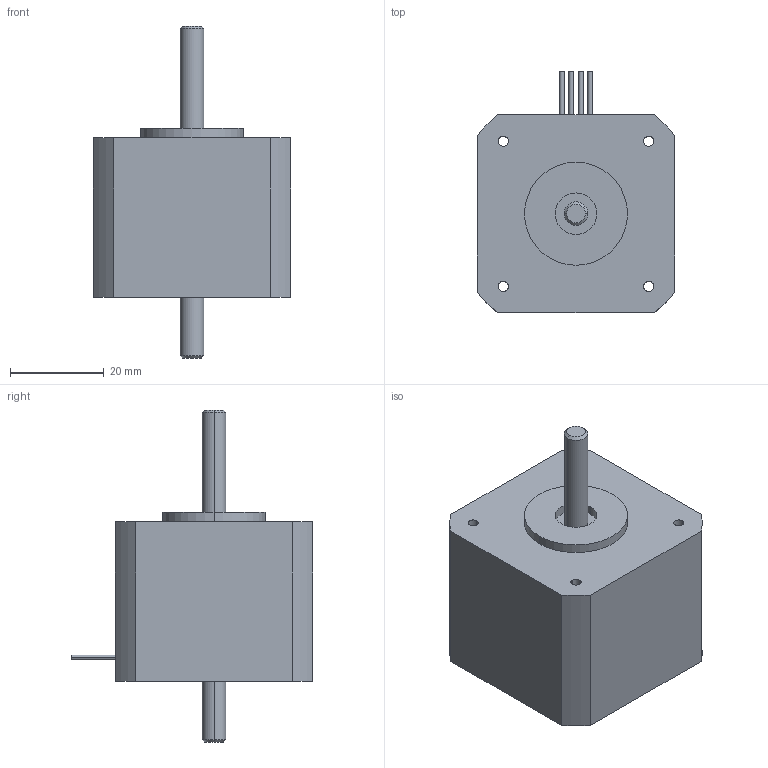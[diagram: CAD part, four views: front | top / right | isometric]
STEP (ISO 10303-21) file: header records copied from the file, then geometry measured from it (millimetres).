
FILE_DESCRIPTION((''),'2;1');
FILE_NAME('C:\Documents and Settings\rbadgerow\Desktop\webmodelmain\web step 3d\4118s\4118s d.stp','2005-05-12T07:28:45',('rbadgerow'),(''),'Autodesk Inventor 9','Autodesk Inventor 9','');
FILE_SCHEMA(('AUTOMOTIVE_DESIGN { 1 0 10303 214 1 1 1 1 }'));
Length unit declared in the file: inch
Products named in the file (1): 4118s d
Bounding box: 42.16 x 51.56 x 70.87 mm (x, y, z)
Volume: 60188.9 mm3; surface area: 10716.3 mm2
Topology: 2 solids, 2 shells, 50 faces, 110 edges, 72 vertices
Faces by surface type: cylinder 30, plane 16, cone 4
Entity records: 1446 total; most frequent: DIRECTION 276, CARTESIAN_POINT 233, ORIENTED_EDGE 220, AXIS2_PLACEMENT_3D 115, EDGE_CURVE 110, VERTEX_POINT 72, EDGE_LOOP 66, CIRCLE 64
